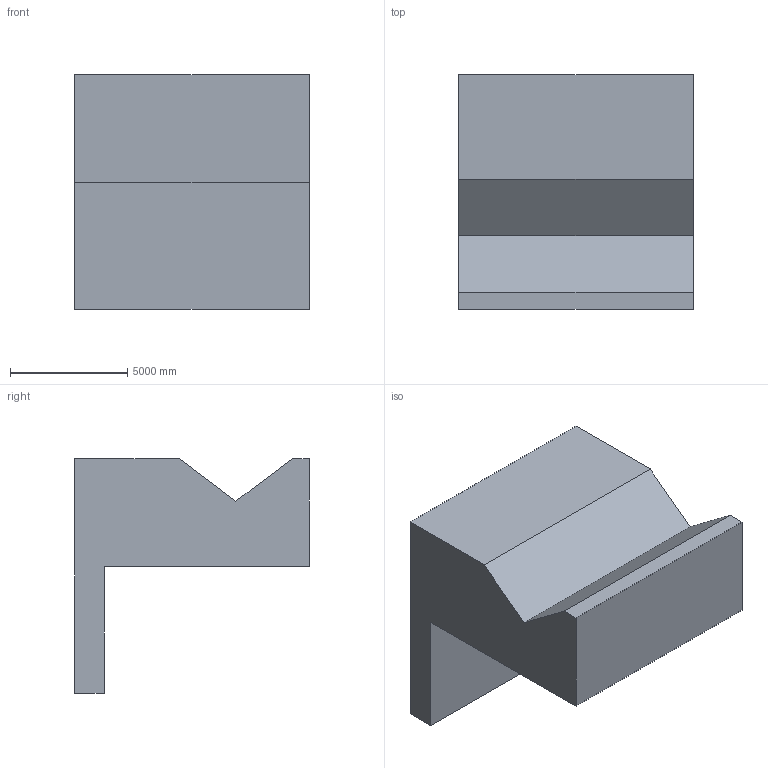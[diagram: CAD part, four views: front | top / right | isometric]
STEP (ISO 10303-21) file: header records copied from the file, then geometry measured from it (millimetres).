
FILE_DESCRIPTION (( 'STEP AP203' ), '1' );
FILE_NAME ('10.STEP', '2022-07-28T13:23:55', ( 'user' ), ( '' ), 'SwSTEP 2.0', 'SolidWorks 2021', '' );
FILE_SCHEMA (( 'CONFIG_CONTROL_DESIGN' ));
Length unit declared in the file: centimetre
Products named in the file (1): 10
Bounding box: 10000 x 10000 x 10000 mm (x, y, z)
Volume: 484223807308.8 mm3; surface area: 508930766.5 mm2
Topology: 1 solids, 1 shells, 11 faces, 27 edges, 18 vertices
Faces by surface type: plane 11
Entity records: 398 total; most frequent: CARTESIAN_POINT 57, ORIENTED_EDGE 54, DIRECTION 51, VECTOR 27, EDGE_CURVE 27, LINE 27, VERTEX_POINT 18, AXIS2_PLACEMENT_3D 12
